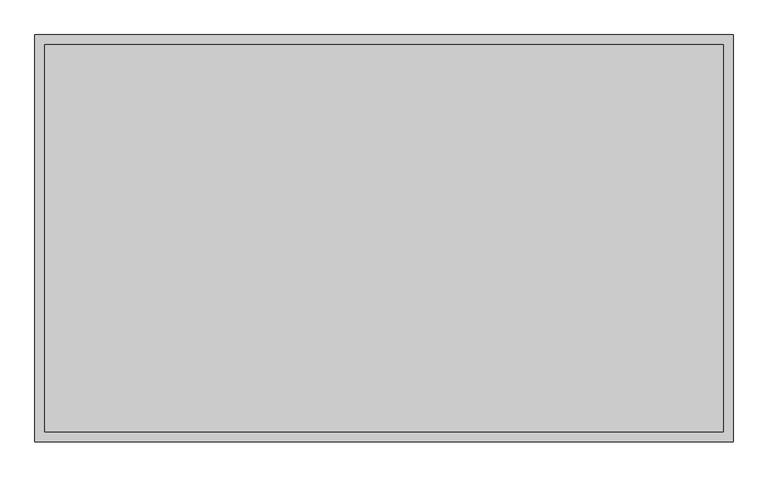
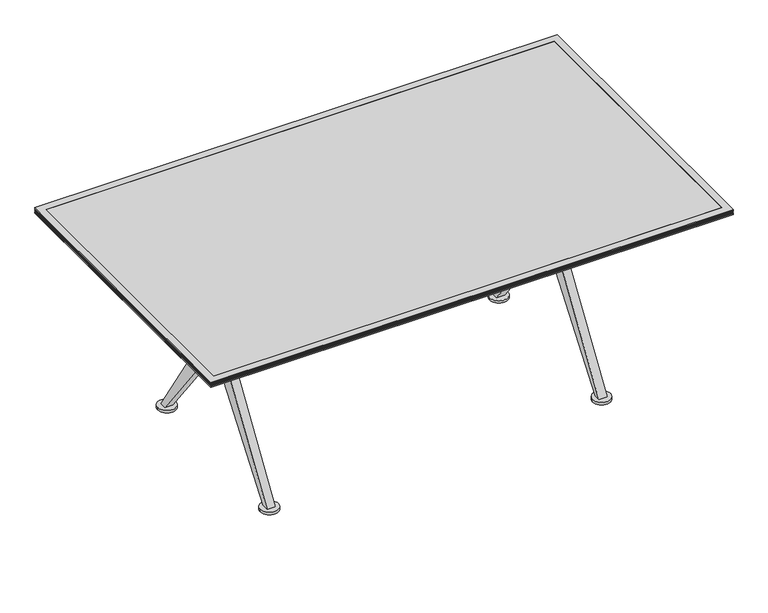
"""IFC4 building model written with IfcOpenShell, lengths in millimetres: furniture geometry, Coalesse_AM_Table_Conference_Ballet_Rectangular_XBase : Folding - 72L x 42W."""

from ifc_helpers import new_model, si_unit, point, frame, frame_2d, origin, origin_with_axes, place, context, project, spatial, polyline, circle_curve, trimmed, segment, composite_curve, outline, extrude, faceted_brep, source, transform, mapped, element, save
from ifc_brep_helpers import plane_surface, cylinder_surface, advanced_brep


def furniture_a29cdf1c(model_context):
    return source(origin(), model_context, "Body", "SolidModel", [
        extrude(outline(composite_curve([segment(trimmed(circle_curve(frame_2d((-581.0365536, 310.3799254)), 25.4), [point((-606.4365536, 310.3799254))], [point((-555.6365536, 310.3799254))], False, "CARTESIAN"), True, "CONTINUOUS"), segment(trimmed(circle_curve(frame_2d((-581.0365536, 310.3799254)), 25.4), [point((-555.6365536, 310.3799254))], [point((-606.4365536, 310.3799254))], False, "CARTESIAN"), True, "CONTINUOUS")], self_intersect=False)), origin_with_axes(), (0.0, 0.0, 1.0), 4.5427804),
        extrude(outline(composite_curve([segment(trimmed(circle_curve(frame_2d((-581.6541541, -311.83186)), 25.4), [point((-607.0541541, -311.83186))], [point((-556.2541541, -311.83186))], False, "CARTESIAN"), True, "CONTINUOUS"), segment(trimmed(circle_curve(frame_2d((-581.6541541, -311.83186)), 25.4), [point((-556.2541541, -311.83186))], [point((-607.0541541, -311.83186))], False, "CARTESIAN"), True, "CONTINUOUS")], self_intersect=False)), origin_with_axes(), (0.0, 0.0, 1.0), 4.5427804),
        extrude(outline(composite_curve([segment(trimmed(circle_curve(frame_2d((581.0365536, 310.388)), 25.4), [point((555.6365536, 310.388))], [point((606.4365536, 310.388))], False, "CARTESIAN"), True, "CONTINUOUS"), segment(trimmed(circle_curve(frame_2d((581.0365536, 310.388)), 25.4), [point((606.4365536, 310.388))], [point((555.6365536, 310.388))], False, "CARTESIAN"), True, "CONTINUOUS")], self_intersect=False)), origin_with_axes(), (0.0, 0.0, 1.0), 4.5427804),
        extrude(outline(composite_curve([segment(trimmed(circle_curve(frame_2d((581.6541541, -311.83186)), 25.4), [point((556.2541541, -311.83186))], [point((607.0541541, -311.83186))], False, "CARTESIAN"), True, "CONTINUOUS"), segment(trimmed(circle_curve(frame_2d((581.6541541, -311.83186)), 25.4), [point((607.0541541, -311.83186))], [point((556.2541541, -311.83186))], False, "CARTESIAN"), True, "CONTINUOUS")], self_intersect=False)), origin_with_axes(), (0.0, 0.0, 1.0), 4.5427804),
        extrude(outline(composite_curve([segment(trimmed(circle_curve(frame_2d((-581.0365536, 310.3799254)), 31.7510292), [point((-612.7875828, 310.3799254))], [point((-549.2855244, 310.3799254))], False, "CARTESIAN"), True, "CONTINUOUS"), segment(trimmed(circle_curve(frame_2d((-581.0365536, 310.3799254)), 31.7510292), [point((-549.2855244, 310.3799254))], [point((-612.7875828, 310.3799254))], False, "CARTESIAN"), True, "CONTINUOUS")], self_intersect=False)), frame((0.0, 0.0, 4.5427804), z_axis=(0.0, 0.0, 1.0), x_axis=(1.0, 0.0, 0.0)), (0.0, 0.0, 1.0), 8.1572196),
        extrude(outline(composite_curve([segment(trimmed(circle_curve(frame_2d((-581.6541541, -311.83186)), 31.75), [point((-613.4041541, -311.83186))], [point((-549.9041541, -311.83186))], False, "CARTESIAN"), True, "CONTINUOUS"), segment(trimmed(circle_curve(frame_2d((-581.6541541, -311.83186)), 31.75), [point((-549.9041541, -311.83186))], [point((-613.4041541, -311.83186))], False, "CARTESIAN"), True, "CONTINUOUS")], self_intersect=False)), frame((0.0, 0.0, 4.5427804), z_axis=(0.0, 0.0, 1.0), x_axis=(1.0, 0.0, 0.0)), (0.0, 0.0, 1.0), 8.1572196),
        extrude(outline(composite_curve([segment(trimmed(circle_curve(frame_2d((581.0365536, 310.388)), 31.7510292), [point((549.2855244, 310.388))], [point((612.7875828, 310.388))], False, "CARTESIAN"), True, "CONTINUOUS"), segment(trimmed(circle_curve(frame_2d((581.0365536, 310.388)), 31.7510292), [point((612.7875828, 310.388))], [point((549.2855244, 310.388))], False, "CARTESIAN"), True, "CONTINUOUS")], self_intersect=False)), frame((0.0, 0.0, 4.5427804), z_axis=(0.0, 0.0, 1.0), x_axis=(1.0, 0.0, 0.0)), (0.0, 0.0, 1.0), 8.1572196),
        extrude(outline(composite_curve([segment(trimmed(circle_curve(frame_2d((581.6541541, -311.83186)), 31.75), [point((549.9041541, -311.83186))], [point((613.4041541, -311.83186))], False, "CARTESIAN"), True, "CONTINUOUS"), segment(trimmed(circle_curve(frame_2d((581.6541541, -311.83186)), 31.75), [point((613.4041541, -311.83186))], [point((549.9041541, -311.83186))], False, "CARTESIAN"), True, "CONTINUOUS")], self_intersect=False)), frame((0.0, 0.0, 4.5427804), z_axis=(0.0, 0.0, 1.0), x_axis=(1.0, 0.0, 0.0)), (0.0, 0.0, 1.0), 8.1572196),
        extrude(outline(polyline([(21.0343629, 381.0), (21.0343629, 482.7111245), (322.2625018, 12.7), (299.8750745, 12.7), (21.0343629, 381.0)])), frame((566.7375, 0.0, 0.0), z_axis=(1.0, 0.0, 0.0), x_axis=(0.0, 1.0, 0.0)), (0.0, 0.0, 1.0), 28.575),
        extrude(outline(polyline([(-21.0343629, 381.0), (-299.8750745, 12.7), (-322.2625018, 12.7), (-21.0343629, 482.7111245), (-21.0343629, 381.0)])), frame((566.7375, 0.0, 0.0), z_axis=(1.0, 0.0, 0.0), x_axis=(0.0, 1.0, 0.0)), (0.0, 0.0, 1.0), 28.575),
        extrude(outline(polyline([(21.0343629, 381.0), (21.0343629, 482.7111245), (322.2625018, 12.7), (299.8750745, 12.7), (21.0343629, 381.0)])), frame((-595.3125, 0.0, 0.0), z_axis=(1.0, 0.0, 0.0), x_axis=(0.0, 1.0, 0.0)), (0.0, 0.0, 1.0), 28.5877172),
        extrude(outline(polyline([(-21.0343629, 381.0), (-299.8750745, 12.7), (-322.2625018, 12.7), (-21.0343629, 482.7111245), (-21.0343629, 381.0)])), frame((-595.3125, 0.0, 0.0), z_axis=(1.0, 0.0, 0.0), x_axis=(0.0, 1.0, 0.0)), (0.0, 0.0, 1.0), 28.5877172),
        extrude(outline(polyline([(-21.0343629, 577.7388634), (-333.375, 698.5000242), (-305.990625, 698.5000242), (-21.0343629, 641.3500242), (-21.0343629, 577.7388634)])), frame((566.7375, 0.0, 0.0), z_axis=(1.0, 0.0, 0.0), x_axis=(0.0, 1.0, 0.0)), (0.0, 0.0, 1.0), 28.575),
        extrude(outline(polyline([(21.0343629, 577.7388634), (21.0343629, 641.3501773), (305.990625, 698.5000242), (333.375, 698.5000242), (21.0343629, 577.7388634)])), frame((566.7375, 0.0, 0.0), z_axis=(1.0, 0.0, 0.0), x_axis=(0.0, 1.0, 0.0)), (0.0, 0.0, 1.0), 28.575),
        extrude(outline(polyline([(-21.0343629, 577.7388634), (-333.375, 698.5000242), (-305.990625, 698.5000242), (-21.0343629, 641.3500242), (-21.0343629, 577.7388634)])), frame((-595.3125, 0.0, 0.0), z_axis=(1.0, 0.0, 0.0), x_axis=(0.0, 1.0, 0.0)), (0.0, 0.0, 1.0), 28.5877172),
        extrude(outline(polyline([(21.0343629, 577.7388634), (21.0343629, 641.3501773), (305.990625, 698.5000242), (333.375, 698.5000242), (21.0343629, 577.7388634)])), frame((-595.3125, 0.0, 0.0), z_axis=(1.0, 0.0, 0.0), x_axis=(0.0, 1.0, 0.0)), (0.0, 0.0, 1.0), 28.5877172),
        advanced_brep(
        [(559.6154775, 12.6999879, 492.1250121), (-559.6154775, 12.6999879, 492.1250121), (-559.6154775, 12.6999879, 568.3250121), (559.6154775, 12.6999879, 568.3250121), (-556.2125298, 0.0, 568.3250121), (-559.6154775, -12.6999879, 568.3250121), (559.6154775, -12.6999879, 568.3250121), (556.2125298, 0.0, 568.3250121), (-559.6154775, -12.6999879, 492.1250121), (559.6154775, -12.6999879, 492.1250121), (556.2125298, 0.0, 492.1250121), (-556.2125298, 0.0, 492.1250121), (-607.0125298, 0.0, 641.3500242), (-556.2125298, 0.0, 641.3500242), (556.2125298, 0.0, 641.3500242), (607.0125298, 0.0, 641.3500242), (-607.0125298, 0.0, 381.0), (-556.2125298, 0.0, 381.0), (556.2125298, 0.0, 381.0), (607.0125298, 0.0, 381.0)],
        [
            (0, 1),
            (1, 2),
            (2, 3),
            (3, 0),
            (2, 4, circle_curve(frame((-581.6125298, 0.0, 568.3250121), z_axis=(0.0, 0.0, -1.0), x_axis=(1.0, 0.0, 0.0)), 25.4)),
            (4, 5, circle_curve(frame((-581.6125298, 0.0, 568.3250121), z_axis=(0.0, 0.0, -1.0), x_axis=(1.0, 0.0, 0.0)), 25.4)),
            (5, 6),
            (6, 7, circle_curve(frame((581.6125298, 0.0, 568.3250121), z_axis=(0.0, 0.0, -1.0), x_axis=(1.0, 0.0, 0.0)), 25.4)),
            (7, 3, circle_curve(frame((581.6125298, 0.0, 568.3250121), z_axis=(0.0, 0.0, -1.0), x_axis=(1.0, 0.0, 0.0)), 25.4)),
            (5, 8),
            (8, 9),
            (9, 6),
            (0, 10, circle_curve(frame((581.6125298, 0.0, 492.1250121), z_axis=(0.0, 0.0, 1.0), x_axis=(1.0, 0.0, 0.0)), 25.4)),
            (10, 9, circle_curve(frame((581.6125298, 0.0, 492.1250121), z_axis=(0.0, 0.0, 1.0), x_axis=(1.0, 0.0, 0.0)), 25.4)),
            (8, 11, circle_curve(frame((-581.6125298, 0.0, 492.1250121), z_axis=(0.0, 0.0, 1.0), x_axis=(1.0, 0.0, 0.0)), 25.4)),
            (11, 1, circle_curve(frame((-581.6125298, 0.0, 492.1250121), z_axis=(0.0, 0.0, 1.0), x_axis=(1.0, 0.0, 0.0)), 25.4)),
            (12, 13, circle_curve(frame((-581.6125298, 0.0, 641.3500242), z_axis=(0.0, 0.0, 1.0), x_axis=(1.0, 0.0, 0.0)), 25.4)),
            (13, 12, circle_curve(frame((-581.6125298, 0.0, 641.3500242), z_axis=(0.0, 0.0, 1.0), x_axis=(1.0, 0.0, 0.0)), 25.4)),
            (14, 15, circle_curve(frame((581.6125298, 0.0, 641.3500242), z_axis=(0.0, 0.0, 1.0), x_axis=(1.0, 0.0, 0.0)), 25.4)),
            (15, 14, circle_curve(frame((581.6125298, 0.0, 641.3500242), z_axis=(0.0, 0.0, 1.0), x_axis=(1.0, 0.0, 0.0)), 25.4)),
            (16, 17, circle_curve(frame((-581.6125298, 0.0, 381.0), z_axis=(0.0, 0.0, -1.0), x_axis=(1.0, 0.0, 0.0)), 25.4)),
            (17, 16, circle_curve(frame((-581.6125298, 0.0, 381.0), z_axis=(0.0, 0.0, -1.0), x_axis=(1.0, 0.0, 0.0)), 25.4)),
            (18, 19, circle_curve(frame((581.6125298, 0.0, 381.0), z_axis=(0.0, 0.0, -1.0), x_axis=(1.0, 0.0, 0.0)), 25.4)),
            (19, 18, circle_curve(frame((581.6125298, 0.0, 381.0), z_axis=(0.0, 0.0, -1.0), x_axis=(1.0, 0.0, 0.0)), 25.4)),
            (12, 16),
            (17, 11),
            (4, 13),
            (14, 7),
            (10, 18),
            (19, 15),
        ],
        [
            plane_surface(frame((566.7375, 12.6999879, 492.1250121), z_axis=(0.0, 1.0, 0.0), x_axis=(-1.0, 0.0, 0.0))),
            plane_surface(frame((566.7375, 12.6999879, 568.3250121), z_axis=(0.0, 0.0, 1.0), x_axis=(-1.0, 0.0, 0.0))),
            plane_surface(frame((566.7375, -12.6999879, 568.3250121), z_axis=(0.0, -1.0, 0.0), x_axis=(-1.0, 0.0, 0.0))),
            plane_surface(frame((566.7375, -12.6999879, 492.1250121), z_axis=(0.0, 0.0, -1.0), x_axis=(-1.0, 0.0, 0.0))),
            plane_surface(frame((-556.2125298, 0.0, 641.3500242), z_axis=(0.0, 0.0, 1.0), x_axis=(0.0, 1.0, 0.0))),
            plane_surface(frame((-556.2125298, 0.0, 381.0), z_axis=(0.0, 0.0, -1.0), x_axis=(0.0, -1.0, 0.0))),
            cylinder_surface(frame((-581.6125298, 0.0, 381.0), z_axis=(0.0, 0.0, 1.0), x_axis=(1.0, 0.0, 0.0)), 25.4),
            cylinder_surface(frame((581.6125298, 0.0, 0.0), z_axis=(0.0, 0.0, 1.0), x_axis=(1.0, 0.0, 0.0)), 25.4),
        ],
        [
            (0, [[1, 2, 3, 4]]),
            (1, [[-3, 5, 6, 7, 8, 9]]),
            (2, [[-7, 10, 11, 12]]),
            (3, [[-1, 13, 14, -11, 15, 16]]),
            (4, [[17, 18]]),
            (4, [[19, 20]]),
            (5, [[21, 22]]),
            (5, [[23, 24]]),
            (6, [[-17, 25, -22, 26, -15, -10, -6, 27]]),
            (6, [[-18, -27, -5, -2, -16, -26, -21, -25]]),
            (7, [[-19, 28, -8, -12, -14, 29, -24, 30]]),
            (7, [[-20, -30, -23, -29, -13, -4, -9, -28]]),
        ],
    ),
        faceted_brep([(-914.4003633, 533.4, 704.85), (-889.0003876, 508.0000242, 698.5000242), (-889.0003876, -507.9999516, 698.5000242), (-914.4003633, -533.3999273, 704.85), (-914.4003633, 533.4, 708.0250242), (-914.4003633, -533.3999273, 708.0250242), (-911.2253755, 530.2250121, 709.6125), (-911.2253755, -530.2249394, 709.6125), (-914.4003633, 533.4, 711.1999758), (-914.4003633, -533.3999273, 711.1999758), (-911.2253755, 530.2250121, 712.7875242), (-911.2253755, -530.2249394, 712.7875242), (-914.4003633, 533.4, 714.375), (-914.4003633, -533.3999273, 714.375), (-911.2253755, 530.2250121, 715.9624758), (-911.2253755, -530.2249394, 715.9624758), (-914.4003633, 533.4, 717.5500242), (-914.4003633, -533.3999273, 717.5500242), (-911.2253755, 530.2250121, 719.1375), (-911.2253755, -530.2249394, 719.1375), (-914.4003633, 533.4, 720.7249758), (-914.4003633, -533.3999273, 720.7249758), (-914.4003633, 533.4, 723.9), (-914.4003633, -533.3999273, 723.9), (-889.0003876, 508.0000242, 723.9), (-889.0003876, -507.9999516, 723.9), (889.0, -507.9999516, 698.5000242), (914.3999758, -533.3999273, 704.85), (914.3999758, -533.3999273, 708.0250242), (911.2249879, -530.2249394, 709.6125), (914.3999758, -533.3999273, 711.1999758), (911.2249879, -530.2249394, 712.7875242), (914.3999758, -533.3999273, 714.375), (911.2249879, -530.2249394, 715.9624758), (914.3999758, -533.3999273, 717.5500242), (911.2249879, -530.2249394, 719.1375), (914.3999758, -533.3999273, 720.7249758), (914.3999758, -533.3999273, 723.9), (889.0, -507.9999516, 723.9), (889.0, 508.0000242, 698.5000242), (914.3999758, 533.4, 704.85), (914.3999758, 533.4, 708.0250242), (911.2249879, 530.2250121, 709.6125), (914.3999758, 533.4, 711.1999758), (911.2249879, 530.2250121, 712.7875242), (914.3999758, 533.4, 714.375), (911.2249879, 530.2250121, 715.9624758), (914.3999758, 533.4, 717.5500242), (911.2249879, 530.2250121, 719.1375), (914.3999758, 533.4, 720.7249758), (914.3999758, 533.4, 723.9), (889.0, 508.0000242, 723.9)], [[[0, 1, 2, 3]], [[4, 0, 3, 5]], [[6, 4, 5, 7]], [[8, 6, 7, 9]], [[10, 8, 9, 11]], [[12, 10, 11, 13]], [[14, 12, 13, 15]], [[16, 14, 15, 17]], [[18, 16, 17, 19]], [[20, 18, 19, 21]], [[22, 20, 21, 23]], [[1, 24, 25, 2]], [[3, 2, 26, 27]], [[5, 3, 27, 28]], [[7, 5, 28, 29]], [[9, 7, 29, 30]], [[11, 9, 30, 31]], [[13, 11, 31, 32]], [[15, 13, 32, 33]], [[17, 15, 33, 34]], [[19, 17, 34, 35]], [[21, 19, 35, 36]], [[23, 21, 36, 37]], [[2, 25, 38, 26]], [[27, 26, 39, 40]], [[28, 27, 40, 41]], [[29, 28, 41, 42]], [[30, 29, 42, 43]], [[31, 30, 43, 44]], [[32, 31, 44, 45]], [[33, 32, 45, 46]], [[34, 33, 46, 47]], [[35, 34, 47, 48]], [[36, 35, 48, 49]], [[37, 36, 49, 50]], [[26, 38, 51, 39]], [[40, 39, 1, 0]], [[41, 40, 0, 4]], [[42, 41, 4, 6]], [[43, 42, 6, 8]], [[44, 43, 8, 10]], [[45, 44, 10, 12]], [[46, 45, 12, 14]], [[47, 46, 14, 16]], [[48, 47, 16, 18]], [[49, 48, 18, 20]], [[50, 49, 20, 22]], [[23, 37, 50, 22], [24, 51, 38, 25]], [[39, 51, 24, 1]]]),
        extrude(outline(polyline([(889.0, 508.0000242), (889.0, -507.9999516), (-889.0003876, -507.9999516), (-889.0003876, 508.0000242), (889.0, 508.0000242)])), frame((0.0, 0.0, 704.85), z_axis=(0.0, 0.0, 1.0), x_axis=(1.0, 0.0, 0.0)), (0.0, 0.0, 1.0), 19.05),
    ])


if __name__ == "__main__":
    model = new_model("IFC4")
    model_context = context("Model", 3, world=origin())
    ifc_project = project(units=[si_unit("LENGTHUNIT", "METRE", prefix="MILLI")], contexts=[model_context])
    site = spatial("IfcSite", under=ifc_project)
    building = spatial("IfcBuilding", under=site)
    placement = place(None, origin())
    furniture_shape = furniture_a29cdf1c(model_context)
    element("IfcFurniture", 1, ObjectType="Coalesse_AM_Table_Conference_Ballet_Rectangular_XBase : Folding - 72L x 42W", at=placement, inside=building, context=model_context, shape_type="MappedRepresentation", body=[
        mapped(furniture_shape, transform((0.0, 0.0, 0.0), x_axis=(1.0, 0.0, 0.0), y_axis=(0.0, 1.0, 0.0), z_axis=(0.0, 0.0, 1.0))),
    ])
    save(model, "model.ifc")
